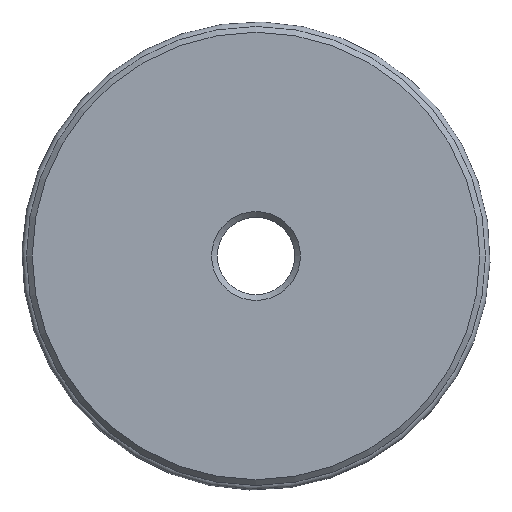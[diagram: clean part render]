
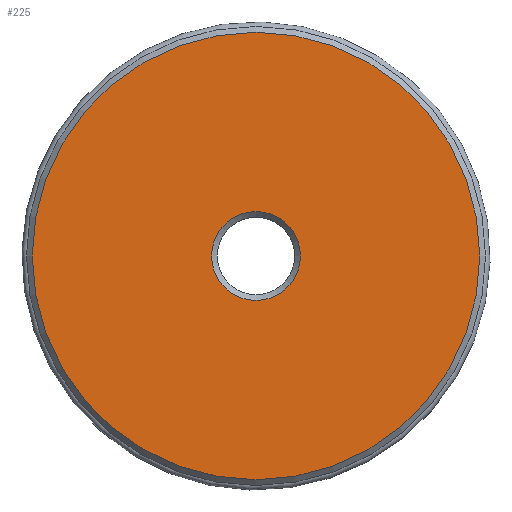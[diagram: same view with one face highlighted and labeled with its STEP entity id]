
A CAD part, front view. The second image highlights one B-rep face of the part: STEP entity #225.
In plain terms, the highlighted planar face has unit normal (0, -1, 0).
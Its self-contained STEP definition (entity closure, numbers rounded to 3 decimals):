
#17=FACE_BOUND('',#47,.T.);
#21=PLANE('',#265);
#32=FACE_OUTER_BOUND('',#46,.T.);
#46=EDGE_LOOP('',(#160));
#47=EDGE_LOOP('',(#161));
#79=CIRCLE('',#264,3.875);
#80=CIRCLE('',#266,19.5);
#100=VERTEX_POINT('',#384);
#101=VERTEX_POINT('',#388);
#122=EDGE_CURVE('',#100,#100,#79,.T.);
#124=EDGE_CURVE('',#101,#101,#80,.T.);
#160=ORIENTED_EDGE('',*,*,#124,.F.);
#161=ORIENTED_EDGE('',*,*,#122,.F.);
#225=ADVANCED_FACE('',(#32,#17),#21,.T.);
#264=AXIS2_PLACEMENT_3D('',#385,#311,#312);
#265=AXIS2_PLACEMENT_3D('',#387,#314,#315);
#266=AXIS2_PLACEMENT_3D('',#389,#316,#317);
#311=DIRECTION('center_axis',(0.,-1.,0.));
#312=DIRECTION('ref_axis',(1.,0.,0.));
#314=DIRECTION('center_axis',(0.,-1.,0.));
#315=DIRECTION('ref_axis',(0.,0.,
-1.));
#316=DIRECTION('center_axis',(0.,1.,0.));
#317=DIRECTION('ref_axis',(-1.,0.,0.));
#384=CARTESIAN_POINT('',(-3.875,-3.9,0.));
#385=CARTESIAN_POINT('Origin',(0.,-3.9,0.));
#387=CARTESIAN_POINT('Origin',(0.,-3.9,0.));
#388=CARTESIAN_POINT('',(19.5,-3.9,0.));
#389=CARTESIAN_POINT('Origin',(0.,-3.9,0.));
